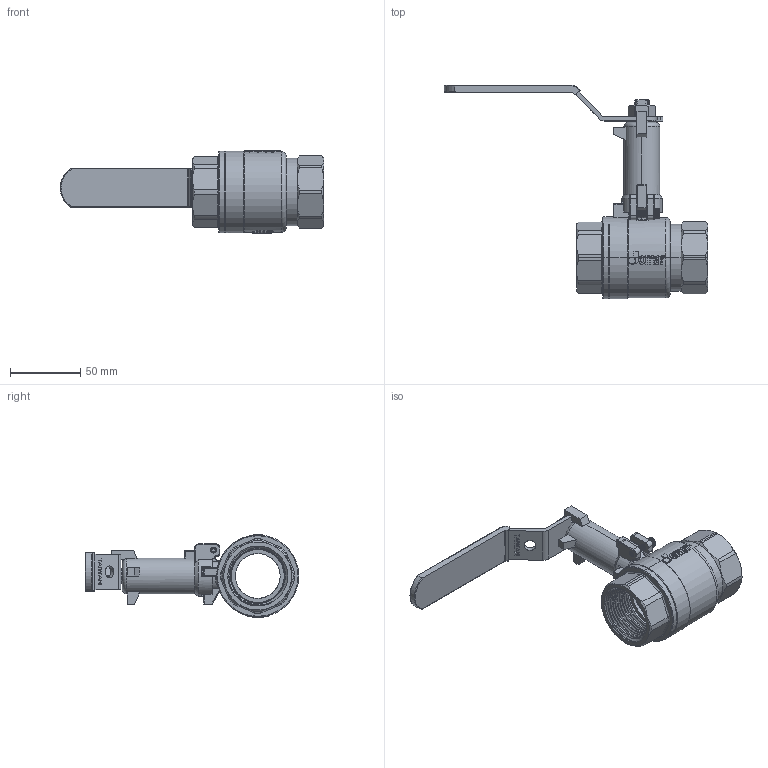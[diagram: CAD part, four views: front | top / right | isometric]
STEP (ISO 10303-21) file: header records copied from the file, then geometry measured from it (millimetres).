
FILE_DESCRIPTION (( 'STEP AP203' ), '1' );
FILE_NAME ('DN32-JOMAR增高套筒估價圖-牙口無掛鎖.STEP', '2024-04-09T07:47:37', ( '' ), ( '' ), 'SwSTEP 2.0', 'SolidWorks 2018', '' );
FILE_SCHEMA (( 'CONFIG_CONTROL_DESIGN' ));
Length unit declared in the file: millimetre
Products named in the file (17): DN32-CBL706-把手組合-無掛鎖(白色T膠套); EBL706A; DN32-PIPE 2; EBL706; DN32-白鐵中心栓+牙套; NGV109; DN32-牙套; RBL706; SCREW-M4-19L; GBL604; DN32-JOMAR增高套筒估價圖-牙口無掛鎖; BBL706A-1.25''''JOMAR球閥八角頭帽蓋-無鉛無插溝; BBL706-1.25''''JOMAR球閥體-無鉛無插溝; CBL235-1.25''''通用把手; TBL267A (TBL106); DN32-白色膠套-T-200CSSG; EBL306
Assembly tree (18 placements, depth 3):
  DN32-JOMAR增高套筒估價圖-牙口無掛鎖
    BBL706-1.25''''JOMAR球閥體-無鉛無插溝
    TBL267A (TBL106)
    EBL306  x2
    EBL706A
    EBL706
    NGV109
    RBL706
    GBL604
    BBL706A-1.25''''JOMAR球閥八角頭帽蓋-無鉛無插溝
    DN32-CBL706-把手組合-無掛鎖(白色T膠套)
      CBL235-1.25''''通用把手
      DN32-白色膠套-T-200CSSG
    DN32-白色膠套-T-200CSSG
    DN32-PIPE 2
    DN32-白鐵中心栓+牙套
    DN32-牙套
    SCREW-M4-19L
Bounding box: 188 x 152.36 x 59 mm (x, y, z)
Volume: 165507.6 mm3; surface area: 115945.5 mm2
Topology: 17 solids, 17 shells, 4284 faces, 11588 edges, 7656 vertices
Faces by surface type: plane 2257, bspline 1146, cylinder 655, cone 165, torus 47, sphere 14
Entity records: 190588 total; most frequent: CARTESIAN_POINT 122891, ORIENTED_EDGE 15636, DIRECTION 10702, EDGE_CURVE 7818, VERTEX_POINT 5151, VECTOR 4216, LINE 4216, AXIS2_PLACEMENT_3D 3243
